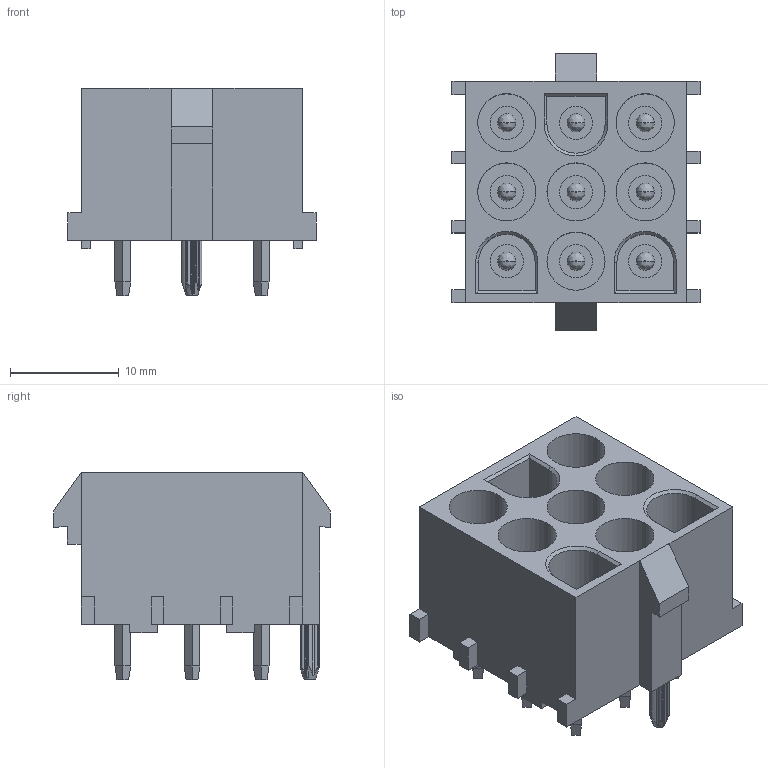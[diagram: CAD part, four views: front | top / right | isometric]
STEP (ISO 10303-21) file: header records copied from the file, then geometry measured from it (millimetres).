
FILE_DESCRIPTION((''),'2;1');
FILE_NAME('365380007','2014-12-22T',('me'),(''),'PRO/ENGINEER BY PARAMETRIC TECHNOLOGY CORPORATION, 2011490','PRO/ENGINEER BY PARAMETRIC TECHNOLOGY CORPORATION, 2011490','');
FILE_SCHEMA(('CONFIG_CONTROL_DESIGN'));
Length unit declared in the file: inch
Products named in the file (1): 365380007
Bounding box: 22.76 x 25.4 x 19.05 mm (x, y, z)
Volume: 3578.2 mm3; surface area: 4849.3 mm2
Topology: 1 solids, 1 shells, 307 faces, 770 edges, 516 vertices
Faces by surface type: plane 197, cylinder 87, bspline 18, cone 5
Entity records: 9669 total; most frequent: CARTESIAN_POINT 2277, DIRECTION 1525, ORIENTED_EDGE 1470, EDGE_CURVE 735, VECTOR 527, LINE 527, AXIS2_PLACEMENT_3D 499, VERTEX_POINT 466
